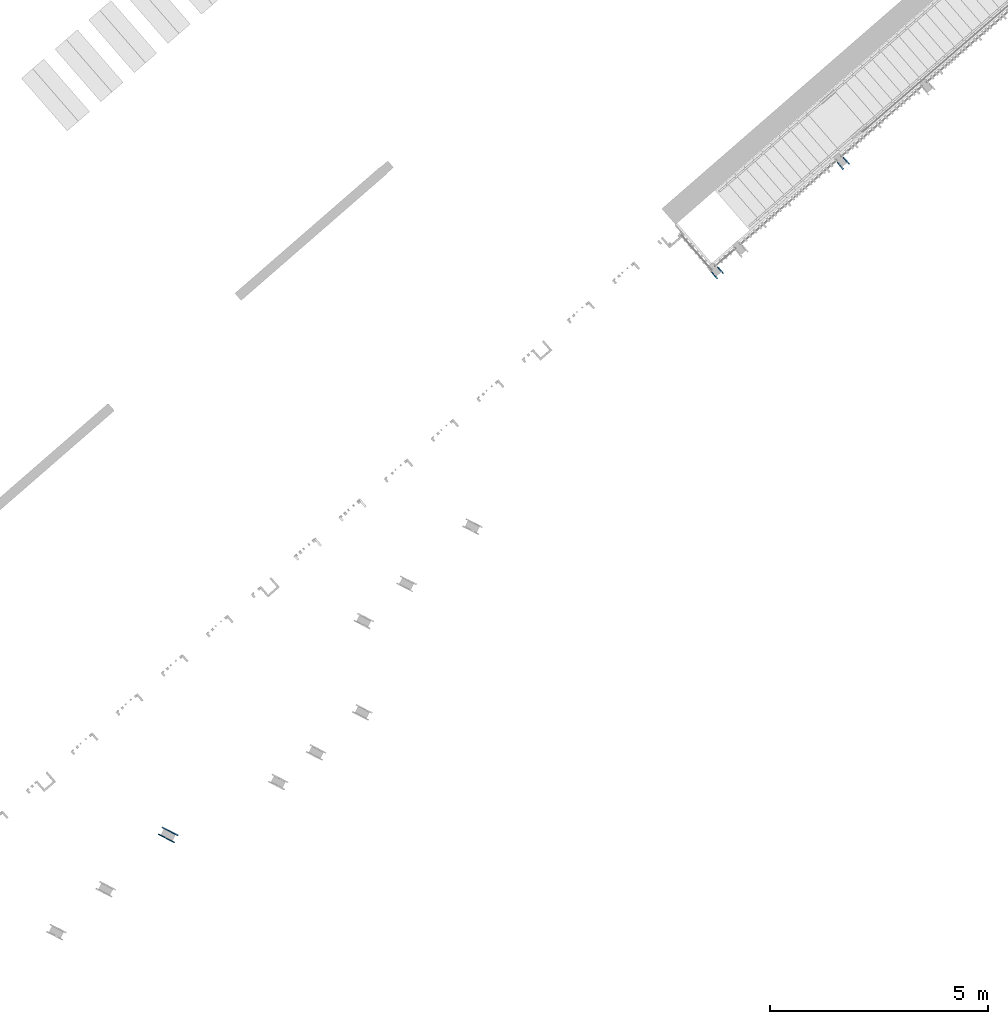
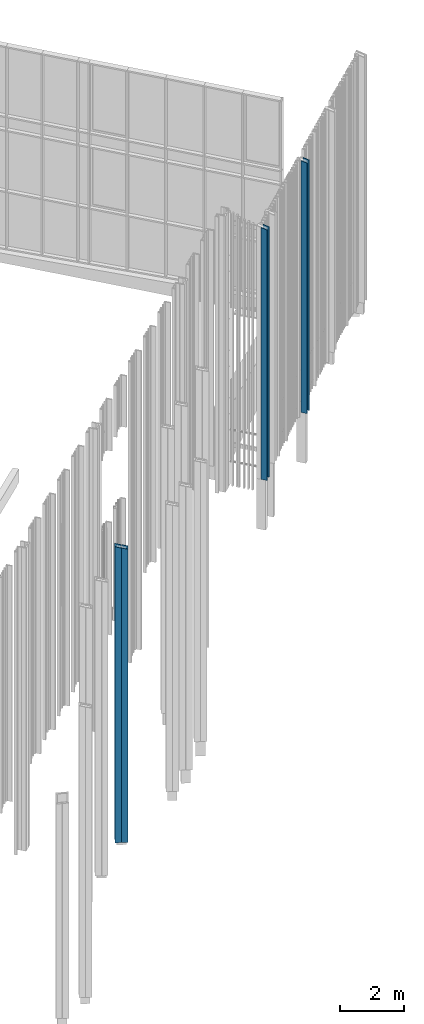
# One storey, part 46 of 390: 8 discrete accessories.
"""IFC2X3 building model written with IfcOpenShell, lengths in millimetres."""

import ifcopenshell
import ifcopenshell.guid

model = None  # the IFC model being written
_history = None  # IfcOwnerHistory: only IFC2X3 demands one
_inside = {}  # id of a spatial element -> (the spatial element, [elements in it])
_under = {}  # id of a project, library or spatial element -> (it, [spatial elements below it])
_declared = {}  # id of a project -> (the project, [libraries it declares])
_typed = {}  # id of a type object -> (the type object, [elements of that type])
_made_of = {}  # id of a material, layer set ... -> (it, [elements and type objects made of it])


def new_model(schema):
    """Start an empty IFC model of exactly this schema.

    Asked for "IFC4X3", IfcOpenShell would pick the latest addendum, in which some entities
    have other attributes; the version numbers below select the first issue.
    IFC2X3 requires an IfcOwnerHistory on every rooted entity: one is made here for all.
    """
    global model, _history
    if schema == "IFC4X3":
        model = ifcopenshell.file(schema_version=(4, 3, 0, 0))
    else:
        model = ifcopenshell.file(schema=schema)
    _inside.clear()
    _under.clear()
    _declared.clear()
    _typed.clear()
    _made_of.clear()
    _history = None
    if model.schema == "IFC2X3":
        org = make("IfcOrganization", Name="unknown")
        user = make(
            "IfcPersonAndOrganization",
            ThePerson=make("IfcPerson", FamilyName="unknown"),
            TheOrganization=org,
        )
        app = make(
            "IfcApplication",
            ApplicationDeveloper=org,
            Version="unknown",
            ApplicationFullName="unknown",
            ApplicationIdentifier="unknown",
        )
        _history = make(
            "IfcOwnerHistory",
            OwningUser=user,
            OwningApplication=app,
            ChangeAction="ADDED",
            CreationDate=0,
        )
    return model


def make(cls, **values):
    """One entity of the class cls with the attributes given. An attribute that is None is left unset."""
    return model.create_entity(
        cls, **{name: value for name, value in values.items() if value is not None}
    )


def entity(cls, *values):
    """Any entity or typed value of the class cls, its attributes in the order of the schema. None: left unset."""
    e = model.create_entity(cls)
    for i, value in enumerate(values):
        if value is not None:
            e[i] = value
    return e


def rooted(cls, **values):
    """An entity with a GlobalId (a new one), such as an element, a storey or a relation."""
    return make(cls, GlobalId=ifcopenshell.guid.new(), OwnerHistory=_history, **values)


def si_unit(unit_type, name, prefix=None):
    """IfcSIUnit, for example si_unit("LENGTHUNIT", "METRE", prefix="MILLI")."""
    return make("IfcSIUnit", UnitType=unit_type, Prefix=prefix, Name=name)


def converted_unit(unit_type, name, factor, base, dimensions=None, offset=None):
    """IfcConversionBasedUnit, such as the inch: factor (a typed value) times the base unit."""
    return make(
        "IfcConversionBasedUnit"
        if offset is None
        else "IfcConversionBasedUnitWithOffset",
        ConversionOffset=offset,
        Dimensions=None
        if dimensions is None
        else entity("IfcDimensionalExponents", *dimensions),
        UnitType=unit_type,
        Name=name,
        ConversionFactor=make(
            "IfcMeasureWithUnit", ValueComponent=factor, UnitComponent=base
        ),
    )


def derived_unit(unit_type, elements):
    """IfcDerivedUnit: a product of units, each with its exponent."""
    return make(
        "IfcDerivedUnit",
        Elements=[
            make("IfcDerivedUnitElement", Unit=unit, Exponent=power)
            for unit, power in elements
        ],
        UnitType=unit_type,
    )


def money_unit(currency):
    """IfcMonetaryUnit."""
    return make("IfcMonetaryUnit", Currency=currency)


def assignment(units):
    """IfcUnitAssignment: the units of a project."""
    return None if units is None else make("IfcUnitAssignment", Units=units)


def point(xyz):
    """IfcCartesianPoint."""
    return None if xyz is None else make("IfcCartesianPoint", Coordinates=xyz)


def direction(xyz):
    """IfcDirection."""
    return None if xyz is None else make("IfcDirection", DirectionRatios=xyz)


def frame(location, z_axis=None, x_axis=None):
    """IfcAxis2Placement3D, a coordinate frame: its origin and axes. An axis left out is left unset."""
    return make(
        "IfcAxis2Placement3D",
        Location=point(location),
        Axis=direction(z_axis),
        RefDirection=direction(x_axis),
    )


def origin_with_axes():
    """The frame at (0, 0, 0) with the z axis (0, 0, 1) and the x axis (1, 0, 0) written out."""
    return frame((0.0, 0.0, 0.0), z_axis=(0.0, 0.0, 1.0), x_axis=(1.0, 0.0, 0.0))


def place(relative_to, where):
    """IfcLocalPlacement: puts the frame where relative to a parent placement (None: the world)."""
    return make(
        "IfcLocalPlacement", PlacementRelTo=relative_to, RelativePlacement=where
    )


def context(
    kind, dimensions, precision=None, world=None, true_north=None, identifier=None
):
    """IfcGeometricRepresentationContext, for example the 3D "Model" context."""
    return make(
        "IfcGeometricRepresentationContext",
        ContextIdentifier=identifier,
        ContextType=kind,
        CoordinateSpaceDimension=dimensions,
        Precision=precision,
        WorldCoordinateSystem=world,
        TrueNorth=true_north,
    )


def subcontext(parent, identifier, kind, view, scale=None):
    """IfcGeometricRepresentationSubContext, for example "Body" below "Model"."""
    return make(
        "IfcGeometricRepresentationSubContext",
        ContextIdentifier=identifier,
        ContextType=kind,
        ParentContext=parent,
        TargetScale=scale,
        TargetView=view,
    )


def project(units=None, contexts=None):
    """IfcProject with its units and contexts."""
    return rooted(
        "IfcProject",
        Name="project",
        RepresentationContexts=contexts,
        UnitsInContext=assignment(units),
    )


def spatial(cls, under=None, at=None, **own):
    """A site, building, storey or space (cls), placed at a placement, below another one or the project."""
    s = rooted(cls, ObjectPlacement=at, **own)
    if under is not None:
        _under.setdefault(under.id(), (under, []))[1].append(s)
    return s


def faces_of(points, faces, orient=None, outer=None):
    """IfcFace entities. A face is a list of loops; a loop is a list of indices into points, from 0.

    orient and outer hold one flag for each loop. By default every Orientation is true, the
    first loop of a face is its IfcFaceOuterBound and the others are IfcFaceBound.
    """
    made = []
    for i, loops in enumerate(faces):
        bounds = []
        for j, loop in enumerate(loops):
            is_outer = j == 0 if outer is None else outer[i][j]
            bounds.append(
                make(
                    "IfcFaceOuterBound" if is_outer else "IfcFaceBound",
                    Bound=make("IfcPolyLoop", Polygon=[points[k] for k in loop]),
                    Orientation=True if orient is None else orient[i][j],
                )
            )
        made.append(make("IfcFace", Bounds=bounds))
    return made


def faceted_brep(points, faces, orient=None, outer=None, voids=None):
    """IfcFacetedBrep: a solid bounded by flat faces; with voids (closed shells), ...WithVoids."""
    shared = [point(p) for p in points]
    hull = make("IfcClosedShell", CfsFaces=faces_of(shared, faces, orient, outer))
    if voids is None:
        return make("IfcFacetedBrep", Outer=hull)
    return make(
        "IfcFacetedBrepWithVoids",
        Outer=hull,
        Voids=[
            make(cls, CfsFaces=faces_of(shared, fs, o, b)) for cls, fs, o, b in voids
        ],
    )


def shape(context_of_items, identifier, shape_type, items):
    """IfcShapeRepresentation: the items that make up one representation, for example the "Body"."""
    return make(
        "IfcShapeRepresentation",
        ContextOfItems=context_of_items,
        RepresentationIdentifier=identifier,
        RepresentationType=shape_type,
        Items=items,
    )


def source(mapping_origin, context_of_items, identifier, shape_type, items):
    """IfcRepresentationMap: a shape defined once, which mapped items show again and again."""
    return make(
        "IfcRepresentationMap",
        MappingOrigin=mapping_origin,
        MappedRepresentation=shape(context_of_items, identifier, shape_type, items),
    )


def transform(
    local_origin,
    x_axis=None,
    y_axis=None,
    z_axis=None,
    scale=None,
    scale2=None,
    scale3=None,
    uniform=True,
):
    """IfcCartesianTransformationOperator3D, or its non-uniform kind. x_axis, y_axis, z_axis: its Axis1, 2, 3."""
    if uniform:
        return make(
            "IfcCartesianTransformationOperator3D",
            Axis1=direction(x_axis),
            Axis2=direction(y_axis),
            LocalOrigin=point(local_origin),
            Scale=scale,
            Axis3=direction(z_axis),
        )
    return make(
        "IfcCartesianTransformationOperator3DnonUniform",
        Axis1=direction(x_axis),
        Axis2=direction(y_axis),
        LocalOrigin=point(local_origin),
        Scale=scale,
        Axis3=direction(z_axis),
        Scale2=scale2,
        Scale3=scale3,
    )


def mapped(mapping_source, mapping_target):
    """IfcMappedItem: shows the shape of a source again, moved by a transform."""
    return make(
        "IfcMappedItem", MappingSource=mapping_source, MappingTarget=mapping_target
    )


def material(Name=None, Category=None):
    """IfcMaterial."""
    return make("IfcMaterial", Name=Name, Category=Category)


def made_of(thing, what):
    """Note that an element or type object is made of a material, layer set ...; save() writes the relation."""
    if what is not None:
        _made_of.setdefault(what.id(), (what, []))[1].append(thing)
    return thing


def type_object(cls, material=None, **own):
    """A type object (cls), such as IfcWallType, which elements share."""
    return made_of(rooted(cls, **own), material)


def element(
    cls,
    number,
    at=None,
    inside=None,
    cuts=None,
    type_object=None,
    material=None,
    context=None,
    identifier="Body",
    shape_type=None,
    held_by="IfcProductDefinitionShape",
    body=None,
    shapes=None,
    **own,
):
    """One element of the class cls, such as IfcWall. Its Tag is "e" and its number.

    at: its placement. inside: the storey or other place that contains it. cuts: it is an
    opening in that element (IfcRelVoidsElement). A single representation is given by context,
    identifier, shape_type and body (its items); several are given by shapes. held_by: the class
    of the entity that holds the representations. save() writes the other relations.
    """
    e = rooted(cls, Tag="e%d" % number, ObjectPlacement=at, **own)
    if body is not None:
        shapes = [shape(context, identifier, shape_type, body)]
    if shapes is not None:
        e.Representation = make(held_by, Representations=shapes)
    if inside is not None:
        _inside.setdefault(inside.id(), (inside, []))[1].append(e)
    if cuts is not None:
        rooted(
            "IfcRelVoidsElement", RelatingBuildingElement=cuts, RelatedOpeningElement=e
        )
    if type_object is not None:
        _typed.setdefault(type_object.id(), (type_object, []))[1].append(e)
    return made_of(e, material)


def aggregate(whole, parts):
    """IfcRelAggregates: a whole, such as a stair, and the parts it consists of."""
    return rooted("IfcRelAggregates", RelatingObject=whole, RelatedObjects=parts)


def save(model, path):
    """Write the relations noted so far, then the file.

    IfcRelAggregates (storeys below a building ...), IfcRelContainedInSpatialStructure (elements
    in a storey), IfcRelDefinesByType, IfcRelAssociatesMaterial and IfcRelDeclares: one each for
    every whole, place, type object, material and project.
    """
    for whole, parts in _under.values():
        aggregate(whole, parts)
    for where, things in _inside.values():
        rooted(
            "IfcRelContainedInSpatialStructure",
            RelatedElements=things,
            RelatingStructure=where,
        )
    for kind, things in _typed.values():
        rooted("IfcRelDefinesByType", RelatedObjects=things, RelatingType=kind)
    for what, things in _made_of.values():
        rooted("IfcRelAssociatesMaterial", RelatedObjects=things, RelatingMaterial=what)
    for by, libraries in _declared.values():
        rooted("IfcRelDeclares", RelatingContext=by, RelatedDefinitions=libraries)
    model.write(path)


model = new_model("IFC2X3")

# Units and contexts
model_context = context("Model", 3, precision=1e-05, world=origin_with_axes(), true_north=direction((0.0, 1.0)))
body_context = subcontext(model_context, "Body", "Model", "MODEL_VIEW")
ifc_project = project(units=[si_unit("LENGTHUNIT", "METRE", prefix="MILLI"), si_unit("AREAUNIT", "SQUARE_METRE"), si_unit("VOLUMEUNIT", "CUBIC_METRE"), converted_unit("PLANEANGLEUNIT", "DEGREE", entity("IfcPlaneAngleMeasure", 0.0174532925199), si_unit("PLANEANGLEUNIT", "RADIAN"), dimensions=[0, 0, 0, 0, 0, 0, 0]), si_unit("SOLIDANGLEUNIT", "STERADIAN"), money_unit("EUR"), converted_unit("TIMEUNIT", "Year", entity("IfcTimeMeasure", 31556926.0), si_unit("TIMEUNIT", "SECOND"), dimensions=[0, 0, 1, 0, 0, 0, 0]), si_unit("MASSUNIT", "GRAM", prefix="KILO"), si_unit("THERMODYNAMICTEMPERATUREUNIT", "DEGREE_CELSIUS"), si_unit("LUMINOUSINTENSITYUNIT", "LUMEN"), si_unit("ENERGYUNIT", "JOULE", prefix="MEGA"), derived_unit("THERMALCONDUCTANCEUNIT", [(si_unit("POWERUNIT", "WATT"), 1), (si_unit("LENGTHUNIT", "METRE"), -1), (si_unit("THERMODYNAMICTEMPERATUREUNIT", "KELVIN"), -1)]), derived_unit("SPECIFICHEATCAPACITYUNIT", [(si_unit("ENERGYUNIT", "JOULE"), 1), (si_unit("MASSUNIT", "GRAM", prefix="KILO"), -1), (si_unit("THERMODYNAMICTEMPERATUREUNIT", "KELVIN"), -1)]), derived_unit("MASSDENSITYUNIT", [(si_unit("MASSUNIT", "GRAM", prefix="KILO"), 1), (si_unit("VOLUMEUNIT", "CUBIC_METRE"), -1)])], contexts=[model_context])

# Site, building, storey
site_placement = place(None, origin_with_axes())
site = spatial("IfcSite", under=ifc_project, at=site_placement, Name="Site", CompositionType="ELEMENT")
building_placement = place(site_placement, origin_with_axes())
building = spatial("IfcBuilding", under=site, at=building_placement, Name="Building", CompositionType="ELEMENT")
storey_placement = place(building_placement, origin_with_axes())
storey = spatial("IfcBuildingStorey", under=building, at=storey_placement, Name="1 korrus", CompositionType="ELEMENT", Elevation=0.0)

# Discrete accessories
ifc_material = material(Name="GENEERILINE - VÄLINE VOODER")
discrete_accessory_type = type_object("IfcDiscreteAccessoryType", Name="GENEERILINE - VÄLINE VOODER")
shared_shape_1 = source(origin_with_axes(), body_context, "Body", "Brep", [
    faceted_brep([(-162240.327285, 119860.742798, 9490.1408311), (-162240.327285, 119860.742798, 3.92304845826), (-162215.953417, 119662.233568, 3.92304845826), (-162215.953417, 119662.233568, 9543.73066959), (-162218.49127, 119863.423924, 3.92304845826), (-162218.49127, 119863.423924, 9490.1408311), (-162194.117401, 119664.914694, 3.92304845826), (-162194.117401, 119664.914694, 9543.73066959)], [[[0, 1, 2, 3]], [[4, 1, 0, 5]], [[1, 4, 6, 2]], [[2, 6, 7, 3]], [[5, 0, 3, 7]], [[6, 4, 5, 7]]]),
])
for number, where, z_axis, x_axis in (
    (1, (-28012.7620404, 102093.061785, -103.923048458), (0.0, 0.0, 1.0), (-0.829037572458, -0.559192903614, 0.0)),
    (2, (-25125.9980739, 104602.487778, -103.923048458), (0.0, 0.0, 1.0), (-0.829037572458, -0.559192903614, 0.0)),
):
    element("IfcDiscreteAccessory", number, at=place(storey_placement, frame(where, z_axis=z_axis, x_axis=x_axis)), inside=storey, type_object=discrete_accessory_type, material=ifc_material, Name="Päikesevarjestuspost", context=body_context, shape_type="MappedRepresentation", body=[
        mapped(shared_shape_1, transform((0.0, 0.0, 0.0))),
    ])
shared_shape_2 = source(origin_with_axes(), body_context, "Body", "Brep", [
    faceted_brep([(162194.117401, 119664.914694, 3.92304845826), (162215.953417, 119662.233568, 3.92304845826), (162215.953417, 119662.233568, 9543.73066959), (162194.117401, 119664.914694, 9543.73066959), (162218.49127, 119863.423924, 3.92304845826), (162240.327285, 119860.742798, 3.92304845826), (162240.327285, 119860.742798, 9490.1408311), (162218.49127, 119863.423924, 9490.1408311)], [[[0, 1, 2, 3]], [[1, 0, 4, 5]], [[1, 5, 6, 2]], [[3, 2, 6, 7]], [[0, 3, 7, 4]], [[5, 4, 7, 6]]]),
])
for number, where, z_axis, x_axis in (
    (3, (193122.673157, 294323.162899, -103.923048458), (0.0, 0.0, 1.0), (-0.669130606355, -0.743144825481, 0.0)),
    (4, (196009.437124, 296832.588891, -103.923048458), (0.0, 0.0, 1.0), (-0.669130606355, -0.743144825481, 0.0)),
):
    element("IfcDiscreteAccessory", number, at=place(storey_placement, frame(where, z_axis=z_axis, x_axis=x_axis)), inside=storey, type_object=discrete_accessory_type, material=ifc_material, Name="Päikesevarjestuspost", context=body_context, shape_type="MappedRepresentation", body=[
        mapped(shared_shape_2, transform((0.0, 0.0, 0.0))),
    ])
shared_shape_3 = source(origin_with_axes(), body_context, "Body", "Brep", [
    faceted_brep([(-162214.734723, 119652.308107, 9546.41016151), (-162214.734723, 119652.308107, -1615.0), (-162190.360855, 119453.798876, -1615.0), (-162190.360855, 119453.798876, 9600.0), (-162192.898708, 119654.989232, -1615.0), (-162192.898708, 119654.989232, 9546.41016151), (-162168.524839, 119456.480002, -1615.0), (-162168.524839, 119456.480002, 9600.0)], [[[0, 1, 2, 3]], [[4, 1, 0, 5]], [[1, 4, 6, 2]], [[3, 2, 6, 7]], [[5, 0, 3, 7]], [[6, 4, 5, 7]]]),
])
discrete_accessory_1_placement = place(storey_placement, frame((-29029.2065635, 13044.7291496, 0.0), z_axis=(0.0, 0.0, 1.0), x_axis=(-0.559192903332, -0.829037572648, 0.0)))
element("IfcDiscreteAccessory", 5, at=discrete_accessory_1_placement, inside=storey, type_object=discrete_accessory_type, material=ifc_material, Name="Päikesevarjestuspost", context=body_context, shape_type="MappedRepresentation", body=[
    mapped(shared_shape_3, transform((0.0, 0.0, 0.0))),
])
shared_shape_4 = source(origin_with_axes(), body_context, "Body", "Brep", [
    faceted_brep([(162194.117401, 119664.914694, -1615.0), (162215.953417, 119662.233568, -1615.0), (162215.953417, 119662.233568, 9543.73066959), (162194.117401, 119664.914694, 9543.73066959), (162218.49127, 119863.423924, -1615.0), (162240.327285, 119860.742798, -1615.0), (162240.327285, 119860.742798, 9490.1408311), (162218.49127, 119863.423924, 9490.1408311)], [[[0, 1, 2, 3]], [[1, 0, 4, 5]], [[2, 1, 5, 6]], [[3, 2, 6, 7]], [[0, 3, 7, 4]], [[4, 7, 6, 5]]]),
])
discrete_accessory_2_placement = place(storey_placement, frame((103993.335296, 274116.167326, 0.0), z_axis=(0.0, 0.0, 1.0), x_axis=(-0.342020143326, -0.939692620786, 0.0)))
element("IfcDiscreteAccessory", 6, at=discrete_accessory_2_placement, inside=storey, type_object=discrete_accessory_type, material=ifc_material, Name="Päikesevarjestuspost", context=body_context, shape_type="MappedRepresentation", body=[
    mapped(shared_shape_4, transform((0.0, 0.0, 0.0))),
])
shared_shape_5 = source(origin_with_axes(), body_context, "Body", "Brep", [
    faceted_brep([(162190.360855, 119453.798876, -1615.0), (162190.360855, 119453.798876, 9600.0), (162168.524839, 119456.480002, 9600.0), (162168.524839, 119456.480002, -1615.0), (162214.734723, 119652.308107, -1615.0), (162214.734723, 119652.308107, 9546.41016151), (162192.898708, 119654.989232, 9546.41016151), (162192.898708, 119654.989232, -1615.0)], [[[0, 1, 2, 3]], [[1, 0, 4, 5]], [[2, 1, 5, 6]], [[3, 2, 6, 7]], [[0, 3, 7, 4]], [[7, 6, 5, 4]]]),
])
discrete_accessory_3_placement = place(storey_placement, frame((103993.335296, 274116.167326, 0.0), z_axis=(0.0, 0.0, 1.0), x_axis=(-0.342020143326, -0.939692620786, 0.0)))
element("IfcDiscreteAccessory", 7, at=discrete_accessory_3_placement, inside=storey, type_object=discrete_accessory_type, material=ifc_material, Name="Päikesevarjestuspost", context=body_context, shape_type="MappedRepresentation", body=[
    mapped(shared_shape_5, transform((0.0, 0.0, 0.0))),
])
shared_shape_6 = source(origin_with_axes(), body_context, "Body", "Brep", [
    faceted_brep([(-162240.327285, 119860.742798, 9490.1408311), (-162240.327285, 119860.742798, -1615.0), (-162215.953417, 119662.233568, -1615.0), (-162215.953417, 119662.233568, 9543.73066959), (-162218.49127, 119863.423924, -1615.0), (-162218.49127, 119863.423924, 9490.1408311), (-162194.117401, 119664.914694, -1615.0), (-162194.117401, 119664.914694, 9543.73066959)], [[[0, 1, 2, 3]], [[4, 1, 0, 5]], [[1, 4, 6, 2]], [[2, 6, 7, 3]], [[5, 0, 3, 7]], [[6, 4, 5, 7]]]),
])
discrete_accessory_4_placement = place(storey_placement, frame((-29029.2065635, 13044.7291496, 0.0), z_axis=(0.0, 0.0, 1.0), x_axis=(-0.559192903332, -0.829037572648, 0.0)))
element("IfcDiscreteAccessory", 8, at=discrete_accessory_4_placement, inside=storey, type_object=discrete_accessory_type, material=ifc_material, Name="Päikesevarjestuspost", context=body_context, shape_type="MappedRepresentation", body=[
    mapped(shared_shape_6, transform((0.0, 0.0, 0.0))),
])

save(model, "model.ifc")
